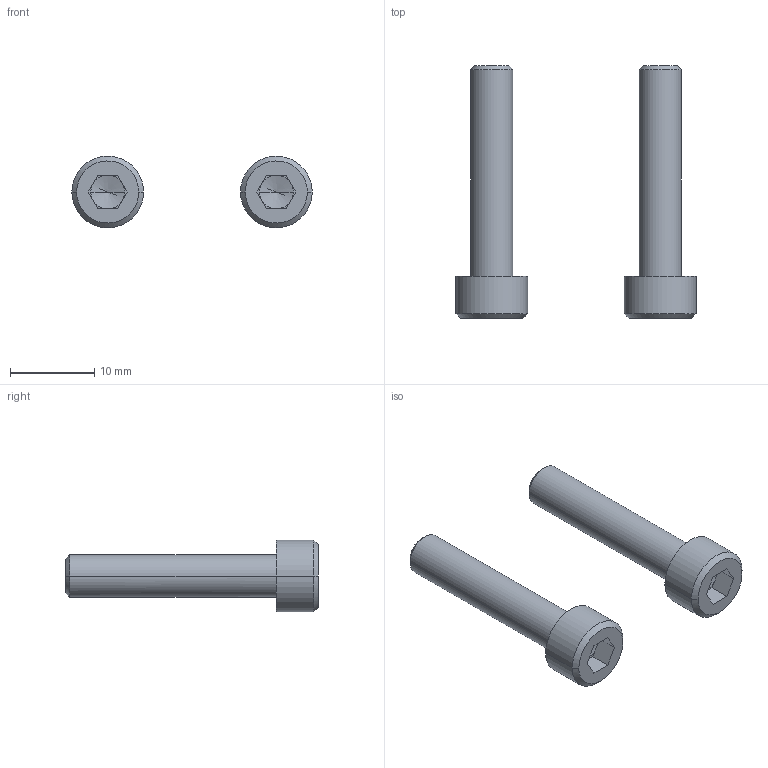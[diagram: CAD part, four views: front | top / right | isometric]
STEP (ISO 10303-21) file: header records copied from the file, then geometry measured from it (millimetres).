
FILE_DESCRIPTION(/* description */ (''),/* implementation_level */ '2;1');
FILE_NAME(/* name */ '7.x-cart#7.1#SUSLB5-25',/* time_stamp */ '2014-12-01T20:17:25+01:00',/* author */ (''),/* organization */ (''),/* preprocessor_version */ 'ST-DEVELOPER v14',/* originating_system */ '',/* authorisation */ '');
FILE_SCHEMA (('AUTOMOTIVE_DESIGN'));
Length unit declared in the file: millimetre
Products named in the file (2): Document; screw DIN912-like, adhesive, M5x25
Assembly tree (2 placements, depth 2):
  Document
    screw DIN912-like, adhesive, M5x25  x2
Bounding box: 28.5 x 30 x 8.49 mm (x, y, z)
Volume: 1468.4 mm3; surface area: 1322.3 mm2
Topology: 2 solids, 2 shells, 50 faces, 112 edges, 66 vertices
Faces by surface type: plane 30, bspline 20
Entity records: 1413 total; most frequent: CARTESIAN_POINT 633, B_SPLINE_CURVE_WITH_KNOTS 126, ORIENTED_EDGE 108, PCURVE 108, DEFINITIONAL_REPRESENTATION 108, SURFACE_CURVE 54, EDGE_CURVE 54, VERTEX_POINT 33
